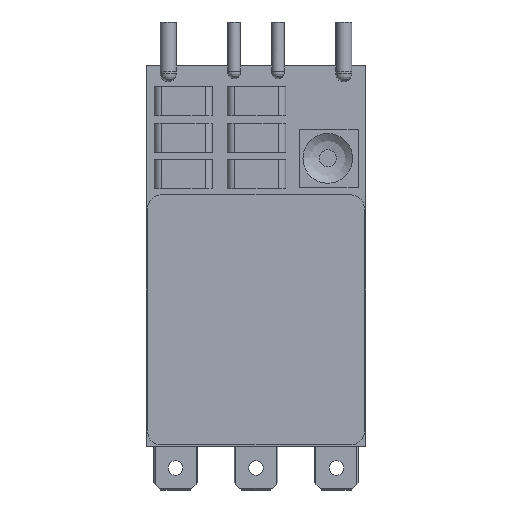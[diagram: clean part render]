
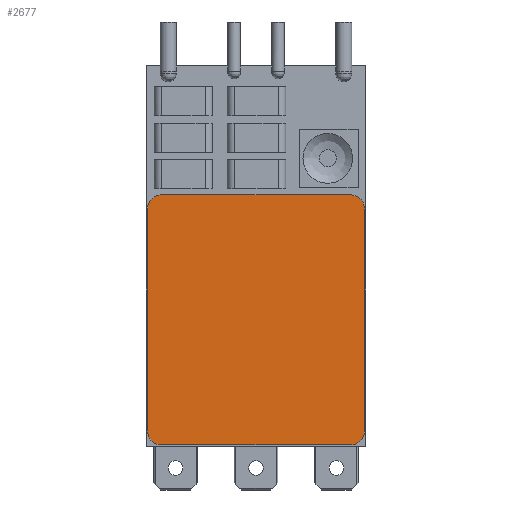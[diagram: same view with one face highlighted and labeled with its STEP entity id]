
A CAD part, top view. The second image highlights one B-rep face of the part: STEP entity #2677.
In plain terms, the highlighted planar face has unit normal (0, 0, 1).
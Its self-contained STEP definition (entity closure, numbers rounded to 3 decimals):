
#75=ELLIPSE('',#2878,1.031,1.);
#76=ELLIPSE('',#2881,1.031,1.);
#77=ELLIPSE('',#2884,1.031,1.);
#78=ELLIPSE('',#2887,1.031,1.);
#247=FACE_OUTER_BOUND('',#403,.T.);
#403=EDGE_LOOP('',(#2178,#2179,#2180,#2181,#2182,#2183,#2184,#2185));
#643=LINE('',#4402,#950);
#646=LINE('',#4410,#953);
#649=LINE('',#4418,#956);
#651=LINE('',#4424,#958);
#950=VECTOR('',#3397,10.);
#953=VECTOR('',#3406,10.);
#956=VECTOR('',#3415,10.);
#958=VECTOR('',#3423,10.);
#1240=VERTEX_POINT('',#4394);
#1241=VERTEX_POINT('',#4395);
#1242=VERTEX_POINT('',#4400);
#1243=VERTEX_POINT('',#4404);
#1244=VERTEX_POINT('',#4405);
#1245=VERTEX_POINT('',#4412);
#1246=VERTEX_POINT('',#4413);
#1247=VERTEX_POINT('',#4420);
#1567=EDGE_CURVE('',#1240,#1241,#75,.T.);
#1571=EDGE_CURVE('',#1242,#1240,#643,.T.);
#1572=EDGE_CURVE('',#1243,#1244,#76,.T.);
#1575=EDGE_CURVE('',#1241,#1243,#646,.T.);
#1576=EDGE_CURVE('',#1245,#1246,#77,.T.);
#1579=EDGE_CURVE('',#1244,#1245,#649,.T.);
#1580=EDGE_CURVE('',#1247,#1242,#78,.T.);
#1582=EDGE_CURVE('',#1246,#1247,#651,.T.);
#2178=ORIENTED_EDGE('',*,*,#1567,.F.);
#2179=ORIENTED_EDGE('',*,*,#1571,.F.);
#2180=ORIENTED_EDGE('',*,*,#1580,.F.);
#2181=ORIENTED_EDGE('',*,*,#1582,.F.);
#2182=ORIENTED_EDGE('',*,*,#1576,.F.);
#2183=ORIENTED_EDGE('',*,*,#1579,.F.);
#2184=ORIENTED_EDGE('',*,*,#1572,.F.);
#2185=ORIENTED_EDGE('',*,*,#1575,.F.);
#2533=PLANE('',#2889);
#2677=ADVANCED_FACE('',(#247),#2533,.T.);
#2878=AXIS2_PLACEMENT_3D('',#4396,#3390,#3391);
#2881=AXIS2_PLACEMENT_3D('',#4406,#3400,#3401);
#2884=AXIS2_PLACEMENT_3D('',#4414,#3409,#3410);
#2887=AXIS2_PLACEMENT_3D('',#4421,#3418,#3419);
#2889=AXIS2_PLACEMENT_3D('',#4425,#3424,#3425);
#3390=DIRECTION('center_axis',(0.,0.,-1.));
#3391=DIRECTION('ref_axis',(-0.707,0.707,0.));
#3397=DIRECTION('',(0.,1.,0.));
#3400=DIRECTION('center_axis',(0.,0.,-1.));
#3401=DIRECTION('ref_axis',(0.707,0.707,0.));
#3406=DIRECTION('',(1.,0.,0.));
#3409=DIRECTION('center_axis',(0.,0.,-1.));
#3410=DIRECTION('ref_axis',(0.707,-0.707,0.));
#3415=DIRECTION('',(0.,-1.,0.));
#3418=DIRECTION('center_axis',(0.,0.,-1.));
#3419=DIRECTION('ref_axis',(-0.707,-0.707,0.));
#3423=DIRECTION('',(-1.,0.,0.));
#3424=DIRECTION('center_axis',(0.,0.,1.));
#3425=DIRECTION('ref_axis',(-1.,0.,0.));
#4394=CARTESIAN_POINT('',(-7.426,16.192,3.));
#4395=CARTESIAN_POINT('',(-6.442,17.176,3.));
#4396=CARTESIAN_POINT('Origin',(-6.411,16.161,3.));
#4400=CARTESIAN_POINT('',(-7.426,1.058,3.));
#4402=CARTESIAN_POINT('',(-7.426,26.,3.));
#4404=CARTESIAN_POINT('',(6.442,17.176,3.));
#4405=CARTESIAN_POINT('',(7.426,16.192,3.));
#4406=CARTESIAN_POINT('Origin',(6.411,16.161,3.));
#4410=CARTESIAN_POINT('',(-7.25,17.176,3.));
#4412=CARTESIAN_POINT('',(7.426,1.058,3.));
#4413=CARTESIAN_POINT('',(6.442,0.074,3.));
#4414=CARTESIAN_POINT('Origin',(6.411,1.089,3.));
#4418=CARTESIAN_POINT('',(7.426,0.25,3.));
#4420=CARTESIAN_POINT('',(-6.442,0.074,3.));
#4421=CARTESIAN_POINT('Origin',(-6.411,1.089,3.));
#4424=CARTESIAN_POINT('',(-7.25,0.074,3.));
#4425=CARTESIAN_POINT('Origin',(0.,8.625,3.));
